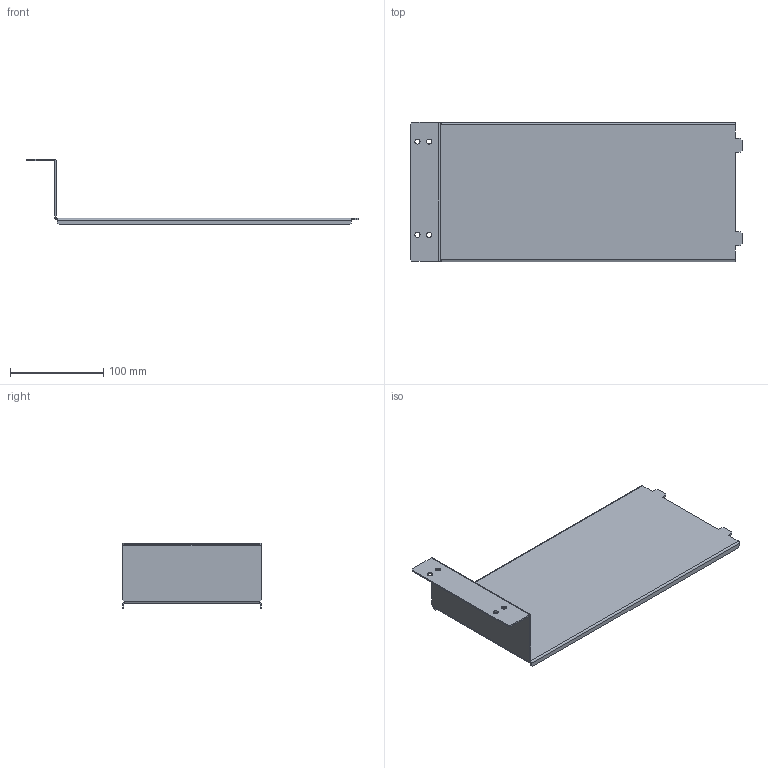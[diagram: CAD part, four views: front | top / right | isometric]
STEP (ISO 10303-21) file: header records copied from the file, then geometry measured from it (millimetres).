
FILE_DESCRIPTION(('CAx-IF Rec.Pracs.---Model Styling and Organization---1.2---2011-12-15','CAx-IF Rec.Pracs.---Geometric and Assembly Validation Properties---4.1---2014-06-16','CAx-IF Rec.Pracs.---PMI Polyline Presentation---2.0---2013-05-24'),'2;1');
FILE_NAME('R5M2SPCC3M.stp','2021-05-05T11:53:04+03:00',(''),(''),'STEP Interface 4.4 by CT CoreTechnologie','3D_Evolution4.4 by CT CoreTechnologie','');
FILE_SCHEMA(('AUTOMOTIVE_DESIGN { 1 0 10303 214 1 1 1 1 }'));
Length unit declared in the file: millimetre
Products named in the file (2): R5M2SPCC3M; RB.1398.00.00.0_-01
Assembly tree (1 placements, depth 2):
  R5M2SPCC3M
    RB.1398.00.00.0_-01
Bounding box: 356 x 149 x 70.5 mm (x, y, z)
Surface area: 131232.3 mm2 (no closed solid volume)
Topology: 0 solids, 2 shells, 66 faces, 170 edges, 108 vertices
Faces by surface type: plane 50, cylinder 16
Entity records: 2065 total; most frequent: CARTESIAN_POINT 346, ORIENTED_EDGE 340, DIRECTION 338, EDGE_CURVE 170, VECTOR 138, LINE 138, VERTEX_POINT 108, AXIS2_PLACEMENT_3D 100
